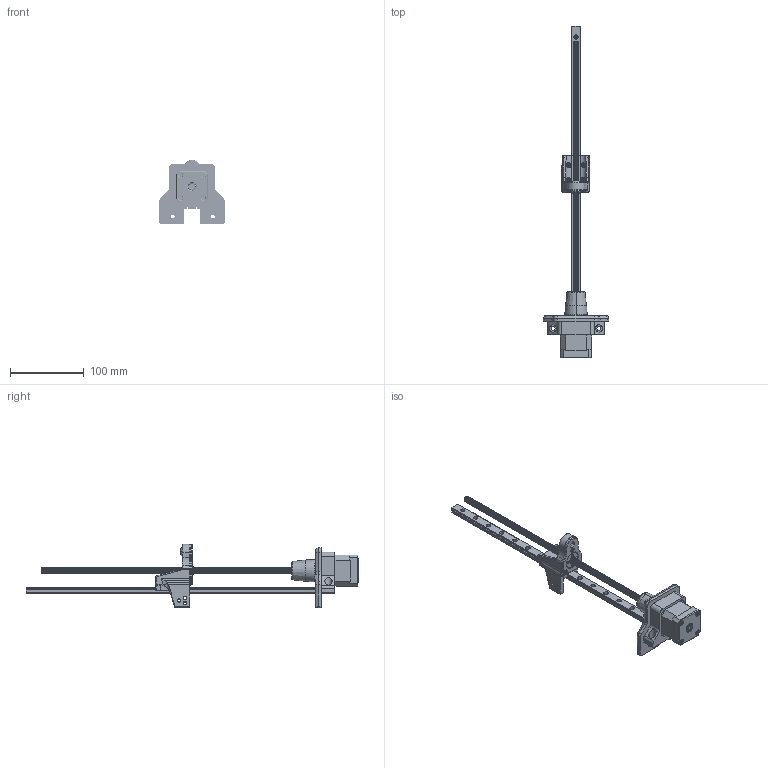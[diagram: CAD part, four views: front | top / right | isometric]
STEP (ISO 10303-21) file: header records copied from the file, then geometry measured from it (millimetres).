
FILE_DESCRIPTION (( 'STEP AP214' ), '1' );
FILE_NAME ('ass_b2v_movimento_z_cx.STEP', '2024-01-16T13:07:08', ( '' ), ( '' ), 'SwSTEP 2.0', 'SolidWorks 2022', '' );
FILE_SCHEMA (( 'AUTOMOTIVE_DESIGN' ));
Length unit declared in the file: millimetre
Products named in the file (14): b2v_supporto_nema_cx; trapezia_c_t8; accopiamento; MGN12H_Pattino; Guida_Pattino_MGN12; MGN12_400_По умолчанию; b2v_pillow_block; b2v_carrello_cx_mgn12; b2v_carrello_cx_cover; reggispinta; ass_b2v_movimento_z_cx; trapezia_v_t8; b2v_cover_giunto; nema_17_motore
Assembly tree (13 placements, depth 3):
  ass_b2v_movimento_z_cx
    b2v_supporto_nema_cx
    trapezia_v_t8
    Guida_Pattino_MGN12
      MGN12_400_По умолчанию
      MGN12H_Pattino
    b2v_carrello_cx_mgn12
    b2v_carrello_cx_cover
    b2v_pillow_block
    reggispinta
    accopiamento
    trapezia_c_t8
    b2v_cover_giunto
    nema_17_motore
Bounding box: 88.4 x 450 x 86.5 mm (x, y, z)
Volume: 247632.9 mm3; surface area: 116594.3 mm2
Topology: 31 solids, 31 shells, 1818 faces, 5215 edges, 3347 vertices
Faces by surface type: cylinder 827, plane 470, torus 214, cone 175, sphere 96, bspline 36
Entity records: 108222 total; most frequent: CARTESIAN_POINT 57210, ORIENTED_EDGE 10000, DIRECTION 8761, EDGE_CURVE 5000, AXIS2_PLACEMENT_3D 3423, VERTEX_POINT 3239, EDGE_LOOP 2023, LINE 1915
